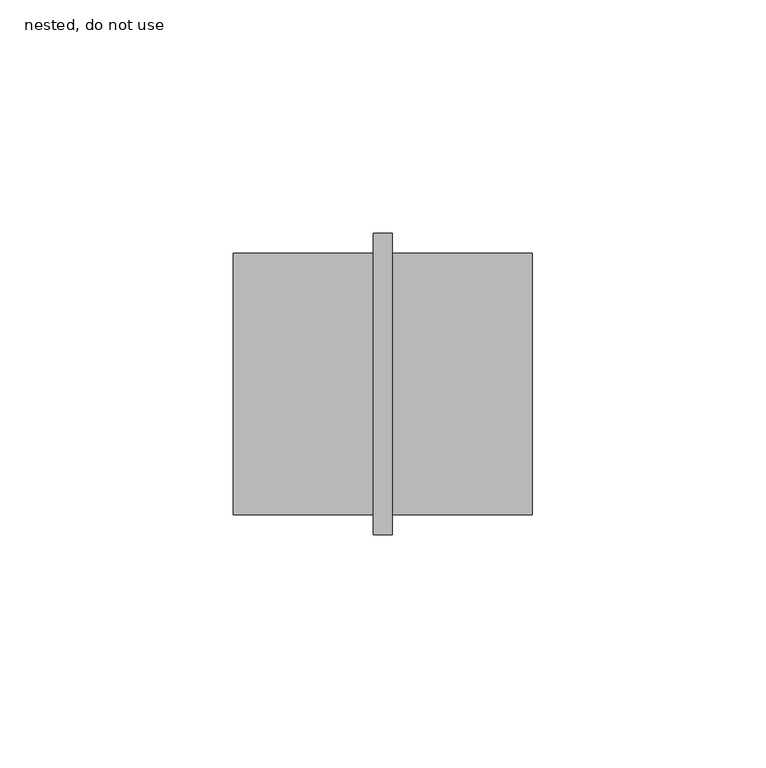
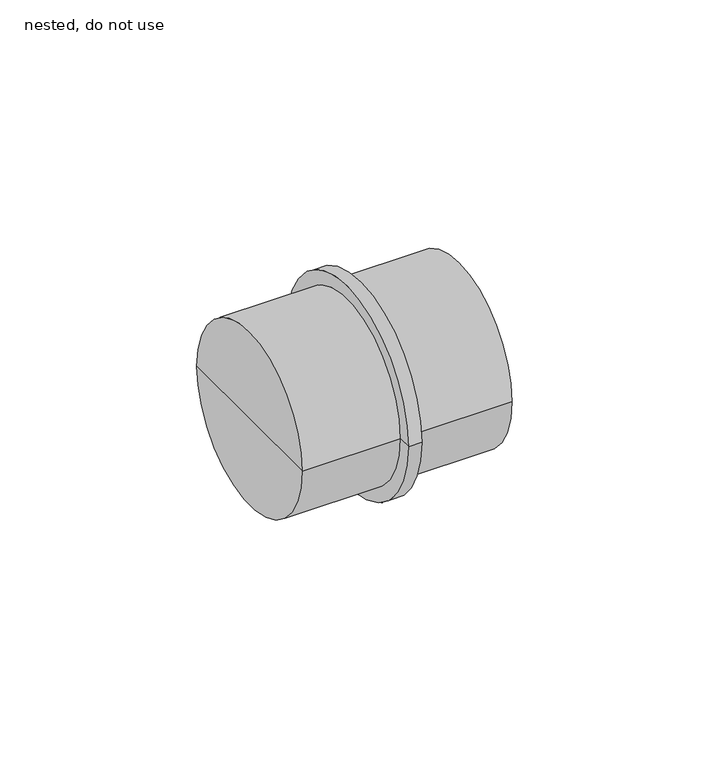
"""IFC4 building model written with IfcOpenShell, lengths in millimetres: pipe fitting geometry, NLRS_52_PIF_UN_HDPE flange bushing for screw coupler -SH_Akatherm : nested, do not use."""

import ifcopenshell
import ifcopenshell.guid

model = None  # the IFC model being written
_history = None  # IfcOwnerHistory: only IFC2X3 demands one
_inside = {}  # id of a spatial element -> (the spatial element, [elements in it])
_under = {}  # id of a project, library or spatial element -> (it, [spatial elements below it])
_declared = {}  # id of a project -> (the project, [libraries it declares])
_typed = {}  # id of a type object -> (the type object, [elements of that type])
_made_of = {}  # id of a material, layer set ... -> (it, [elements and type objects made of it])


def new_model(schema):
    """Start an empty IFC model of exactly this schema.

    Asked for "IFC4X3", IfcOpenShell would pick the latest addendum, in which some entities
    have other attributes; the version numbers below select the first issue.
    IFC2X3 requires an IfcOwnerHistory on every rooted entity: one is made here for all.
    """
    global model, _history
    if schema == "IFC4X3":
        model = ifcopenshell.file(schema_version=(4, 3, 0, 0))
    else:
        model = ifcopenshell.file(schema=schema)
    _inside.clear()
    _under.clear()
    _declared.clear()
    _typed.clear()
    _made_of.clear()
    _history = None
    if model.schema == "IFC2X3":
        org = make("IfcOrganization", Name="unknown")
        user = make(
            "IfcPersonAndOrganization",
            ThePerson=make("IfcPerson", FamilyName="unknown"),
            TheOrganization=org,
        )
        app = make(
            "IfcApplication",
            ApplicationDeveloper=org,
            Version="unknown",
            ApplicationFullName="unknown",
            ApplicationIdentifier="unknown",
        )
        _history = make(
            "IfcOwnerHistory",
            OwningUser=user,
            OwningApplication=app,
            ChangeAction="ADDED",
            CreationDate=0,
        )
    return model


def make(cls, **values):
    """One entity of the class cls with the attributes given. An attribute that is None is left unset."""
    return model.create_entity(
        cls, **{name: value for name, value in values.items() if value is not None}
    )


def rooted(cls, **values):
    """An entity with a GlobalId (a new one), such as an element, a storey or a relation."""
    return make(cls, GlobalId=ifcopenshell.guid.new(), OwnerHistory=_history, **values)


def si_unit(unit_type, name, prefix=None):
    """IfcSIUnit, for example si_unit("LENGTHUNIT", "METRE", prefix="MILLI")."""
    return make("IfcSIUnit", UnitType=unit_type, Prefix=prefix, Name=name)


def assignment(units):
    """IfcUnitAssignment: the units of a project."""
    return None if units is None else make("IfcUnitAssignment", Units=units)


def point(xyz):
    """IfcCartesianPoint."""
    return None if xyz is None else make("IfcCartesianPoint", Coordinates=xyz)


def direction(xyz):
    """IfcDirection."""
    return None if xyz is None else make("IfcDirection", DirectionRatios=xyz)


def frame(location, z_axis=None, x_axis=None):
    """IfcAxis2Placement3D, a coordinate frame: its origin and axes. An axis left out is left unset."""
    return make(
        "IfcAxis2Placement3D",
        Location=point(location),
        Axis=direction(z_axis),
        RefDirection=direction(x_axis),
    )


def origin():
    """The frame at (0, 0, 0) with its axes left unset."""
    return frame((0.0, 0.0, 0.0))


def place(relative_to, where):
    """IfcLocalPlacement: puts the frame where relative to a parent placement (None: the world)."""
    return make(
        "IfcLocalPlacement", PlacementRelTo=relative_to, RelativePlacement=where
    )


def context(
    kind, dimensions, precision=None, world=None, true_north=None, identifier=None
):
    """IfcGeometricRepresentationContext, for example the 3D "Model" context."""
    return make(
        "IfcGeometricRepresentationContext",
        ContextIdentifier=identifier,
        ContextType=kind,
        CoordinateSpaceDimension=dimensions,
        Precision=precision,
        WorldCoordinateSystem=world,
        TrueNorth=true_north,
    )


def project(units=None, contexts=None):
    """IfcProject with its units and contexts."""
    return rooted(
        "IfcProject",
        Name="project",
        RepresentationContexts=contexts,
        UnitsInContext=assignment(units),
    )


def spatial(cls, under=None, at=None, **own):
    """A site, building, storey or space (cls), placed at a placement, below another one or the project."""
    s = rooted(cls, ObjectPlacement=at, **own)
    if under is not None:
        _under.setdefault(under.id(), (under, []))[1].append(s)
    return s


def circle_curve(where, radius):
    """IfcCircle in the frame where."""
    return make("IfcCircle", Position=where, Radius=radius)


def shape(context_of_items, identifier, shape_type, items):
    """IfcShapeRepresentation: the items that make up one representation, for example the "Body"."""
    return make(
        "IfcShapeRepresentation",
        ContextOfItems=context_of_items,
        RepresentationIdentifier=identifier,
        RepresentationType=shape_type,
        Items=items,
    )


def source(mapping_origin, context_of_items, identifier, shape_type, items):
    """IfcRepresentationMap: a shape defined once, which mapped items show again and again."""
    return make(
        "IfcRepresentationMap",
        MappingOrigin=mapping_origin,
        MappedRepresentation=shape(context_of_items, identifier, shape_type, items),
    )


def transform(
    local_origin,
    x_axis=None,
    y_axis=None,
    z_axis=None,
    scale=None,
    scale2=None,
    scale3=None,
    uniform=True,
):
    """IfcCartesianTransformationOperator3D, or its non-uniform kind. x_axis, y_axis, z_axis: its Axis1, 2, 3."""
    if uniform:
        return make(
            "IfcCartesianTransformationOperator3D",
            Axis1=direction(x_axis),
            Axis2=direction(y_axis),
            LocalOrigin=point(local_origin),
            Scale=scale,
            Axis3=direction(z_axis),
        )
    return make(
        "IfcCartesianTransformationOperator3DnonUniform",
        Axis1=direction(x_axis),
        Axis2=direction(y_axis),
        LocalOrigin=point(local_origin),
        Scale=scale,
        Axis3=direction(z_axis),
        Scale2=scale2,
        Scale3=scale3,
    )


def mapped(mapping_source, mapping_target):
    """IfcMappedItem: shows the shape of a source again, moved by a transform."""
    return make(
        "IfcMappedItem", MappingSource=mapping_source, MappingTarget=mapping_target
    )


def made_of(thing, what):
    """Note that an element or type object is made of a material, layer set ...; save() writes the relation."""
    if what is not None:
        _made_of.setdefault(what.id(), (what, []))[1].append(thing)
    return thing


def element(
    cls,
    number,
    at=None,
    inside=None,
    cuts=None,
    type_object=None,
    material=None,
    context=None,
    identifier="Body",
    shape_type=None,
    held_by="IfcProductDefinitionShape",
    body=None,
    shapes=None,
    **own,
):
    """One element of the class cls, such as IfcWall. Its Tag is "e" and its number.

    at: its placement. inside: the storey or other place that contains it. cuts: it is an
    opening in that element (IfcRelVoidsElement). A single representation is given by context,
    identifier, shape_type and body (its items); several are given by shapes. held_by: the class
    of the entity that holds the representations. save() writes the other relations.
    """
    e = rooted(cls, Tag="e%d" % number, ObjectPlacement=at, **own)
    if body is not None:
        shapes = [shape(context, identifier, shape_type, body)]
    if shapes is not None:
        e.Representation = make(held_by, Representations=shapes)
    if inside is not None:
        _inside.setdefault(inside.id(), (inside, []))[1].append(e)
    if cuts is not None:
        rooted(
            "IfcRelVoidsElement", RelatingBuildingElement=cuts, RelatedOpeningElement=e
        )
    if type_object is not None:
        _typed.setdefault(type_object.id(), (type_object, []))[1].append(e)
    return made_of(e, material)


def aggregate(whole, parts):
    """IfcRelAggregates: a whole, such as a stair, and the parts it consists of."""
    return rooted("IfcRelAggregates", RelatingObject=whole, RelatedObjects=parts)


def save(model, path):
    """Write the relations noted so far, then the file.

    IfcRelAggregates (storeys below a building ...), IfcRelContainedInSpatialStructure (elements
    in a storey), IfcRelDefinesByType, IfcRelAssociatesMaterial and IfcRelDeclares: one each for
    every whole, place, type object, material and project.
    """
    for whole, parts in _under.values():
        aggregate(whole, parts)
    for where, things in _inside.values():
        rooted(
            "IfcRelContainedInSpatialStructure",
            RelatedElements=things,
            RelatingStructure=where,
        )
    for kind, things in _typed.values():
        rooted("IfcRelDefinesByType", RelatedObjects=things, RelatingType=kind)
    for what, things in _made_of.values():
        rooted("IfcRelAssociatesMaterial", RelatedObjects=things, RelatingMaterial=what)
    for by, libraries in _declared.values():
        rooted("IfcRelDeclares", RelatingContext=by, RelatedDefinitions=libraries)
    model.write(path)


def plane_surface(at):
    """IfcPlane: the flat surface through the origin of the frame at, square to its z axis."""
    return make("IfcPlane", Position=at)


def cylinder_surface(at, radius):
    """IfcCylindricalSurface: all points at the distance radius from the z axis of the frame at."""
    return make("IfcCylindricalSurface", Position=at, Radius=radius)


def advanced_brep(points, edges, surfaces, faces):
    """IfcAdvancedBrep: a solid bounded by faces that lie on surfaces and meet in shared edges.

    An edge is (start, end): straight between two places in points (the first is 0);
    or (start, end, curve); or (start, end, curve, False) where it runs against its curve.
    A face is (place in surfaces, loops), or (place, loops, False) where it looks against
    its surface's normal. A loop lists edges by number (the first is 1), with a minus sign
    where the edge is run from its end to its start. The first loop is the outer one.
    """
    corners = [point(p) for p in points]
    vertices = [make("IfcVertexPoint", VertexGeometry=c) for c in corners]
    made = []
    for start, end, *more in edges:
        made.append(
            make(
                "IfcEdgeCurve",
                EdgeStart=vertices[start],
                EdgeEnd=vertices[end],
                EdgeGeometry=more[0] if more else make("IfcPolyline", Points=[corners[start], corners[end]]),
                SameSense=more[1] if len(more) > 1 else True,
            )
        )
    hull = []
    for where, loops, *sense in faces:
        bounds = []
        for j, loop in enumerate(loops):
            ring = [make("IfcOrientedEdge", EdgeElement=made[abs(k) - 1], Orientation=k > 0) for k in loop]
            bounds.append(
                make(
                    "IfcFaceOuterBound" if j == 0 else "IfcFaceBound",
                    Bound=make("IfcEdgeLoop", EdgeList=ring),
                    Orientation=True,
                )
            )
        hull.append(make("IfcAdvancedFace", Bounds=bounds, FaceSurface=surfaces[where], SameSense=sense[0] if sense else True))
    return make("IfcAdvancedBrep", Outer=make("IfcClosedShell", CfsFaces=hull))


def nested_do_not_use_80e3b38c(model_context):
    return source(origin(), model_context, "Body", "AdvancedBrep", [
        advanced_brep(
        [(-2.0, -32.25, 0.0), (-2.0, 32.25, 0.0), (2.0, 32.25, 0.0), (2.0, -32.25, 0.0), (-2.0, -28.0, 0.0), (-2.0, 28.0, 0.0), (-32.0, -28.0, 0.0), (-32.0, 28.0, 0.0), (-32.0, 0.0, 0.0), (32.0, -28.0, 0.0), (32.0, 28.0, 0.0), (32.0, 0.0, 0.0), (2.0, -28.0, 0.0), (2.0, 28.0, 0.0)],
        [
            (0, 1, circle_curve(frame((-2.0, 0.0, 0.0), z_axis=(1.0, 0.0, 0.0), x_axis=(0.0, 1.0, 0.0)), 32.25)),
            (1, 2),
            (2, 3, circle_curve(frame((2.0, 0.0, 0.0), z_axis=(-1.0, 0.0, 0.0), x_axis=(0.0, 1.0, 0.0)), 32.25)),
            (3, 0),
            (1, 0, circle_curve(frame((-2.0, 0.0, 0.0), z_axis=(1.0, 0.0, 0.0), x_axis=(0.0, 1.0, 0.0)), 32.25)),
            (3, 2, circle_curve(frame((2.0, 0.0, 0.0), z_axis=(-1.0, 0.0, 0.0), x_axis=(0.0, 1.0, 0.0)), 32.25)),
            (4, 5, circle_curve(frame((-2.0, 0.0, 0.0), z_axis=(1.0, 0.0, 0.0), x_axis=(0.0, 1.0, 0.0)), 28.0)),
            (5, 1),
            (0, 4),
            (5, 4, circle_curve(frame((-2.0, 0.0, 0.0), z_axis=(1.0, 0.0, 0.0), x_axis=(0.0, 1.0, 0.0)), 28.0)),
            (6, 7, circle_curve(frame((-32.0, 0.0, 0.0), z_axis=(1.0, 0.0, 0.0), x_axis=(0.0, 1.0, 0.0)), 28.0)),
            (7, 5),
            (4, 6),
            (7, 6, circle_curve(frame((-32.0, 0.0, 0.0), z_axis=(1.0, 0.0, 0.0), x_axis=(0.0, 1.0, 0.0)), 28.0)),
            (8, 7),
            (6, 8),
            (9, 10, circle_curve(frame((32.0, 0.0, 0.0), z_axis=(1.0, 0.0, 0.0), x_axis=(0.0, 1.0, 0.0)), 28.0)),
            (10, 11),
            (11, 9),
            (10, 9, circle_curve(frame((32.0, 0.0, 0.0), z_axis=(1.0, 0.0, 0.0), x_axis=(0.0, 1.0, 0.0)), 28.0)),
            (12, 13, circle_curve(frame((2.0, 0.0, 0.0), z_axis=(1.0, 0.0, 0.0), x_axis=(0.0, 1.0, 0.0)), 28.0)),
            (13, 10),
            (9, 12),
            (13, 12, circle_curve(frame((2.0, 0.0, 0.0), z_axis=(1.0, 0.0, 0.0), x_axis=(0.0, 1.0, 0.0)), 28.0)),
            (2, 13),
            (12, 3),
        ],
        [
            cylinder_surface(frame((-340.0, 0.0, 0.0), z_axis=(-1.0, 0.0, 0.0), x_axis=(0.0, 1.0, 0.0)), 32.25),
            plane_surface(frame((-2.0, 0.0, 0.0), z_axis=(-1.0, 0.0, 0.0), x_axis=(0.0, 1.0, 0.0))),
            cylinder_surface(frame((-340.0, 0.0, 0.0), z_axis=(-1.0, 0.0, 0.0), x_axis=(0.0, 1.0, 0.0)), 28.0),
            plane_surface(frame((-32.0, 0.0, 0.0), z_axis=(-1.0, 0.0, 0.0), x_axis=(0.0, 1.0, 0.0))),
            plane_surface(frame((32.0, 0.0, 0.0), z_axis=(1.0, 0.0, 0.0), x_axis=(0.0, 1.0, 0.0))),
            plane_surface(frame((2.0, 0.0, 0.0), z_axis=(1.0, 0.0, 0.0), x_axis=(0.0, 1.0, 0.0))),
        ],
        [
            (0, [[1, 2, 3, 4]]),
            (0, [[5, -4, 6, -2]]),
            (1, [[7, 8, -1, 9]]),
            (1, [[10, -9, -5, -8]]),
            (2, [[11, 12, -7, 13]]),
            (2, [[14, -13, -10, -12]]),
            (3, [[15, -11, 16]]),
            (3, [[-16, -14, -15]]),
            (4, [[17, 18, 19]]),
            (4, [[20, -19, -18]]),
            (2, [[21, 22, -17, 23]]),
            (2, [[24, -23, -20, -22]]),
            (5, [[-3, 25, -21, 26]]),
            (5, [[-6, -26, -24, -25]]),
        ],
    ),
    ])


if __name__ == "__main__":
    model = new_model("IFC4")
    model_context = context("Model", 3, world=origin())
    ifc_project = project(units=[si_unit("LENGTHUNIT", "METRE", prefix="MILLI")], contexts=[model_context])
    site = spatial("IfcSite", under=ifc_project)
    building = spatial("IfcBuilding", under=site)
    placement = place(None, origin())
    nested_do_not_use_shape = nested_do_not_use_80e3b38c(model_context)
    element("IfcPipeFitting", 1, ObjectType="NLRS_52_PIF_UN_HDPE flange bushing for screw coupler -SH_Akatherm : nested, do not use", at=placement, inside=building, context=model_context, shape_type="MappedRepresentation", body=[
        mapped(nested_do_not_use_shape, transform((0.0, 0.0, 0.0), x_axis=(1.0, 0.0, 0.0), y_axis=(0.0, 1.0, 0.0), z_axis=(0.0, 0.0, 1.0))),
    ])
    save(model, "model.ifc")
